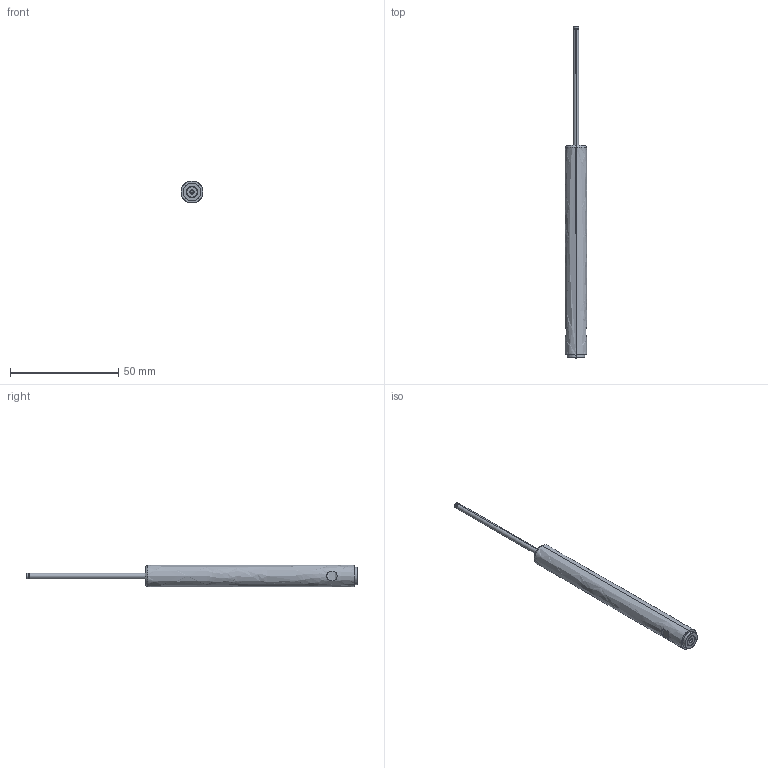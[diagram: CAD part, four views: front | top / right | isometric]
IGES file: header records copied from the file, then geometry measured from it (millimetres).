
Start section: SolidWorks IGES file using analytic representation for surfaces
Bounding box: 10 x 153 x 10 mm (x, y, z)
Surface area: 3946.7 mm2 (no closed solid volume)
Topology: 0 solids, 0 shells, 67 faces, 826 edges, 824 vertices
Faces by surface type: bspline 38, revolution 29
